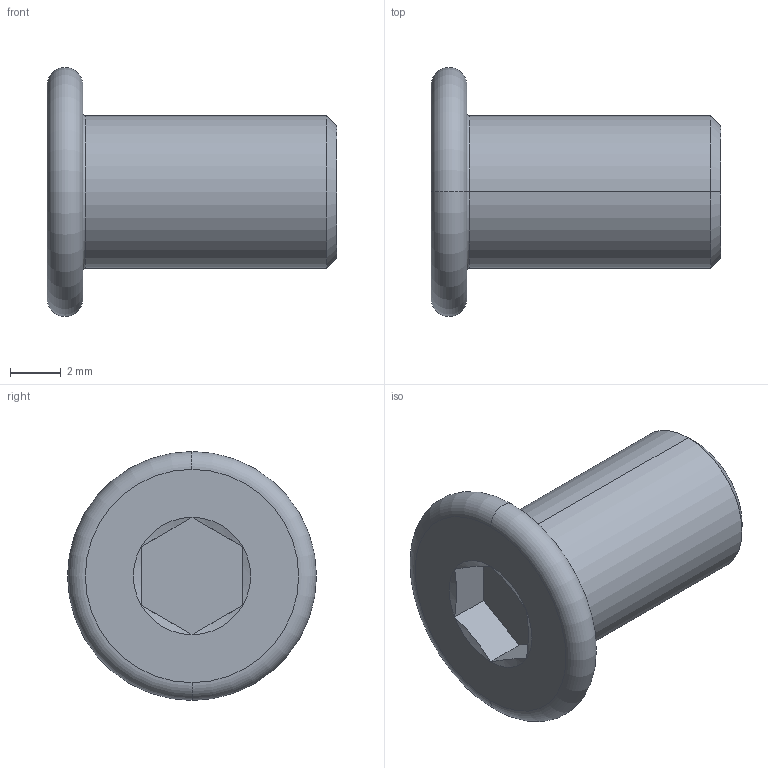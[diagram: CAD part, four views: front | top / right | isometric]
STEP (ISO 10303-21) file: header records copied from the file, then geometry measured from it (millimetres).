
FILE_DESCRIPTION (( 'STEP AP203' ), '1' );
FILE_NAME ('LGD-304M-M6x10.STEP', '2026-08-13T12:36:57', ( '' ), ( '' ), 'SwSTEP 2.0', 'SolidWorks 2020', '' );
FILE_SCHEMA (( 'CONFIG_CONTROL_DESIGN' ));
Length unit declared in the file: millimetre
Products named in the file (1): LGD-304M-M6x10
Bounding box: 11.4 x 9.8 x 9.8 mm (x, y, z)
Volume: 358.4 mm3; surface area: 379.5 mm2
Topology: 1 solids, 1 shells, 24 faces, 44 edges, 24 vertices
Faces by surface type: plane 10, cone 8, torus 4, cylinder 2
Entity records: 673 total; most frequent: CARTESIAN_POINT 119, DIRECTION 110, ORIENTED_EDGE 88, AXIS2_PLACEMENT_3D 47, EDGE_CURVE 44, EDGE_LOOP 26, ADVANCED_FACE 24, FACE_OUTER_BOUND 24
